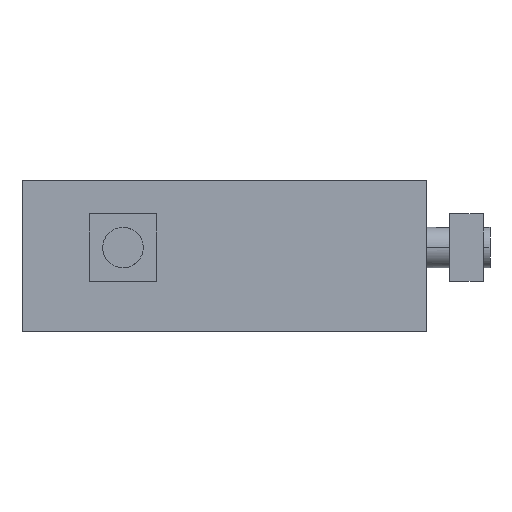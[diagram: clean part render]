
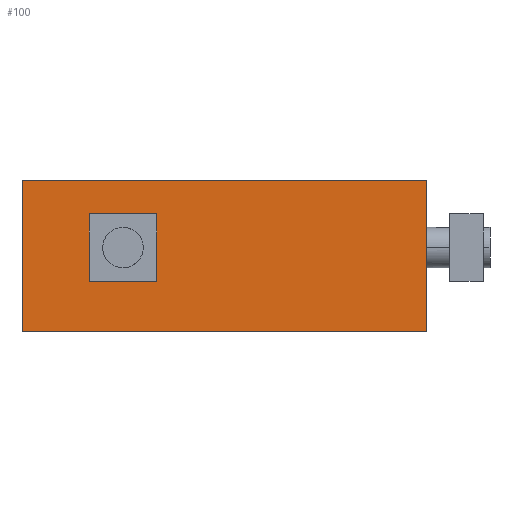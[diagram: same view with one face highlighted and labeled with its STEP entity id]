
A CAD part, left-side view. The second image highlights one B-rep face of the part: STEP entity #100.
In plain terms, the highlighted planar face has unit normal (-1, 0, 0).
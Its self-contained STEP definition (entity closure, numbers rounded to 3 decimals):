
#23=FACE_BOUND($,#255,.T.);
#100=ADVANCED_FACE($,(#171,#23),#862,.T.);
#171=FACE_OUTER_BOUND($,#254,.T.);
#254=EDGE_LOOP($,(#495,#496,#497,#498));
#255=EDGE_LOOP($,(#499,#500));
#495=ORIENTED_EDGE($,*,*,#700,.T.);
#496=ORIENTED_EDGE($,*,*,#697,.T.);
#497=ORIENTED_EDGE($,*,*,#698,.T.);
#498=ORIENTED_EDGE($,*,*,#699,.T.);
#499=ORIENTED_EDGE($,*,*,#696,.T.);
#500=ORIENTED_EDGE($,*,*,#692,.T.);
#692=EDGE_CURVE($,#812,#810,#963,.T.);
#696=EDGE_CURVE($,#810,#812,#966,.T.);
#697=EDGE_CURVE($,#814,#815,#1031,.T.);
#698=EDGE_CURVE($,#815,#816,#1032,.T.);
#699=EDGE_CURVE($,#816,#817,#1033,.T.);
#700=EDGE_CURVE($,#817,#814,#1034,.T.);
#810=VERTEX_POINT($,#2175);
#812=VERTEX_POINT($,#2177);
#814=VERTEX_POINT($,#2179);
#815=VERTEX_POINT($,#2180);
#816=VERTEX_POINT($,#2181);
#817=VERTEX_POINT($,#2182);
#862=PLANE($,#1174);
#963=(
BOUNDED_CURVE()
B_SPLINE_CURVE(2,(#1972,#1973,#1974,#1975,#1976),.UNSPECIFIED.,.F.,.F.)
B_SPLINE_CURVE_WITH_KNOTS((3,2,3),(0.,5.498,10.996),
.UNSPECIFIED.)
CURVE()
GEOMETRIC_REPRESENTATION_ITEM()
RATIONAL_B_SPLINE_CURVE((1.,0.707,1.,0.707,1.))
REPRESENTATION_ITEM($)
);
#966=(
BOUNDED_CURVE()
B_SPLINE_CURVE(2,(#1989,#1990,#1991,#1992,#1993),.UNSPECIFIED.,.F.,.F.)
B_SPLINE_CURVE_WITH_KNOTS((3,2,3),(0.,5.498,10.996),
.UNSPECIFIED.)
CURVE()
GEOMETRIC_REPRESENTATION_ITEM()
RATIONAL_B_SPLINE_CURVE((1.,0.707,1.,0.707,1.))
REPRESENTATION_ITEM($)
);
#1031=B_SPLINE_CURVE_WITH_KNOTS($,1,(#1994,#1995),.UNSPECIFIED.,.F.,.F.,
(2,2),(0.,60.),.UNSPECIFIED.);
#1032=B_SPLINE_CURVE_WITH_KNOTS($,1,(#1996,#1997),.UNSPECIFIED.,.F.,.F.,
(2,2),(0.,22.5),.UNSPECIFIED.);
#1033=B_SPLINE_CURVE_WITH_KNOTS($,1,(#1998,#1999),.UNSPECIFIED.,.F.,.F.,
(2,2),(0.,60.),.UNSPECIFIED.);
#1034=B_SPLINE_CURVE_WITH_KNOTS($,1,(#2000,#2001),.UNSPECIFIED.,.F.,.F.,
(2,2),(-22.5,0.),.UNSPECIFIED.);
#1174=AXIS2_PLACEMENT_3D($,#2124,#1214,$);
#1214=DIRECTION($,(-1.,0.,0.));
#1972=CARTESIAN_POINT($,(0.,45.,-6.5));
#1973=CARTESIAN_POINT($,(0.,41.5,-6.5));
#1974=CARTESIAN_POINT($,(0.,41.5,-10.));
#1975=CARTESIAN_POINT($,(0.,41.5,-13.5));
#1976=CARTESIAN_POINT($,(0.,45.,-13.5));
#1989=CARTESIAN_POINT($,(0.,45.,-13.5));
#1990=CARTESIAN_POINT($,(0.,48.5,-13.5));
#1991=CARTESIAN_POINT($,(0.,48.5,-10.));
#1992=CARTESIAN_POINT($,(0.,48.5,-6.5));
#1993=CARTESIAN_POINT($,(0.,45.,-6.5));
#1994=CARTESIAN_POINT($,(0.,0.,0.));
#1995=CARTESIAN_POINT($,(0.,60.,0.));
#1996=CARTESIAN_POINT($,(0.,60.,0.));
#1997=CARTESIAN_POINT($,(0.,60.,-22.5));
#1998=CARTESIAN_POINT($,(0.,60.,-22.5));
#1999=CARTESIAN_POINT($,(0.,0.,-22.5));
#2000=CARTESIAN_POINT($,(0.,0.,-22.5));
#2001=CARTESIAN_POINT($,(0.,0.,0.));
#2124=CARTESIAN_POINT($,(0.,0.,0.));
#2175=CARTESIAN_POINT($,(0.,45.,-13.5));
#2177=CARTESIAN_POINT($,(0.,45.,-6.5));
#2179=CARTESIAN_POINT($,(0.,0.,0.));
#2180=CARTESIAN_POINT($,(0.,60.,0.));
#2181=CARTESIAN_POINT($,(0.,60.,-22.5));
#2182=CARTESIAN_POINT($,(0.,0.,-22.5));
